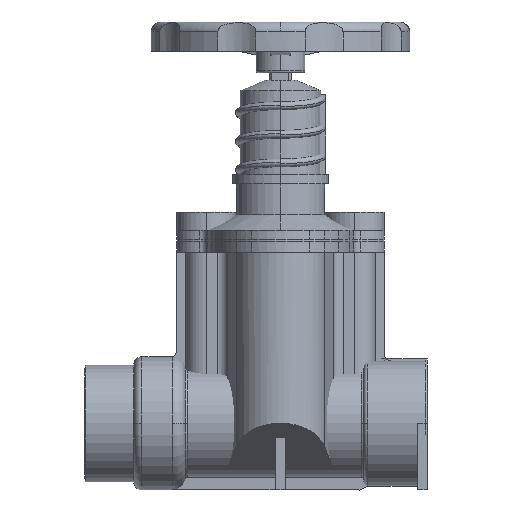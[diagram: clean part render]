
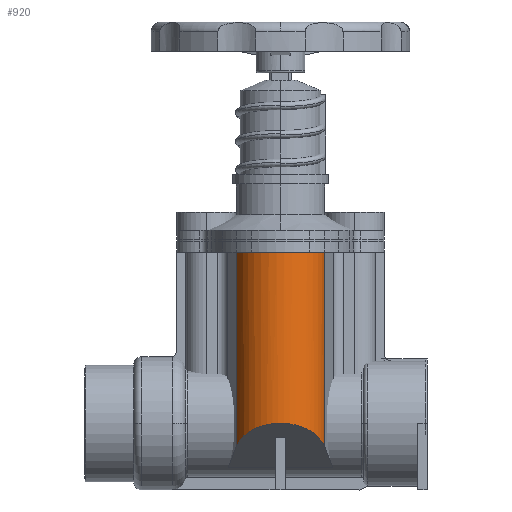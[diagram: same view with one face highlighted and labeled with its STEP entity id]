
A CAD part, front view. The second image highlights one B-rep face of the part: STEP entity #920.
In plain terms, the highlighted cylindrical face has radius 23.343 mm (diameter 46.687 mm), a partial arc.
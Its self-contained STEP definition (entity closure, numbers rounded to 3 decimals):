
#920=ADVANCED_FACE('',(#1953),#1954,.T.);
#1953=FACE_OUTER_BOUND('',#3380,.T.);
#1954=CYLINDRICAL_SURFACE('',#3381,23.344);
#3380=EDGE_LOOP('',(#4909,#4910,#4911,#4912));
#3381=AXIS2_PLACEMENT_3D('',#4913,#4914,#4915);
#4909=ORIENTED_EDGE('',*,*,#8004,.T.);
#4910=ORIENTED_EDGE('',*,*,#8040,.T.);
#4911=ORIENTED_EDGE('',*,*,#8041,.T.);
#4912=ORIENTED_EDGE('',*,*,#7865,.F.);
#4913=CARTESIAN_POINT('',(100.0,-25.156,-22.645));
#4914=DIRECTION('',(0.0,0.0,1.0));
#4915=DIRECTION('',(-1.0,0.0,0.0));
#7865=EDGE_CURVE('',#9288,#9290,#9291,.T.);
#8004=EDGE_CURVE('',#9288,#9528,#9530,.T.);
#8040=EDGE_CURVE('',#9528,#9589,#9590,.T.);
#8041=EDGE_CURVE('',#9589,#9290,#9591,.T.);
#9288=VERTEX_POINT('',#11269);
#9290=VERTEX_POINT('',#11272);
#9291=LINE('',#11273,#11274);
#9528=VERTEX_POINT('',#11559);
#9530=ELLIPSE('',#11562,28.359,23.344);
#9589=VERTEX_POINT('',#11631);
#9590=LINE('',#11632,#11633);
#9591=CIRCLE('',#11634,23.344);
#11269=CARTESIAN_POINT('',(77.452,-31.198,-11.856));
#11272=CARTESIAN_POINT('',(77.452,-31.198,87.406));
#11273=CARTESIAN_POINT('',(77.452,-31.198,-22.645));
#11274=VECTOR('',#13734,1.0);
#11559=CARTESIAN_POINT('',(122.548,-31.198,-11.856));
#11562=AXIS2_PLACEMENT_3D('',#13976,#13977,#13978);
#11631=CARTESIAN_POINT('',(122.548,-31.198,87.406));
#11632=CARTESIAN_POINT('',(122.548,-31.198,-22.645));
#11633=VECTOR('',#14037,1.0);
#11634=AXIS2_PLACEMENT_3D('',#14038,#14039,#14040);
#13734=DIRECTION('',(0.0,0.0,1.0));
#13976=CARTESIAN_POINT('',(100.0,-25.156,-16.024));
#13977=DIRECTION('',(0.0,0.568,0.823));
#13978=DIRECTION('',(0.0,-0.823,0.568));
#14037=DIRECTION('',(0.0,0.0,1.0));
#14038=CARTESIAN_POINT('',(100.0,-25.156,87.406));
#14039=DIRECTION('',(0.0,0.0,-1.0));
#14040=DIRECTION('',(-1.0,0.0,0.0));
